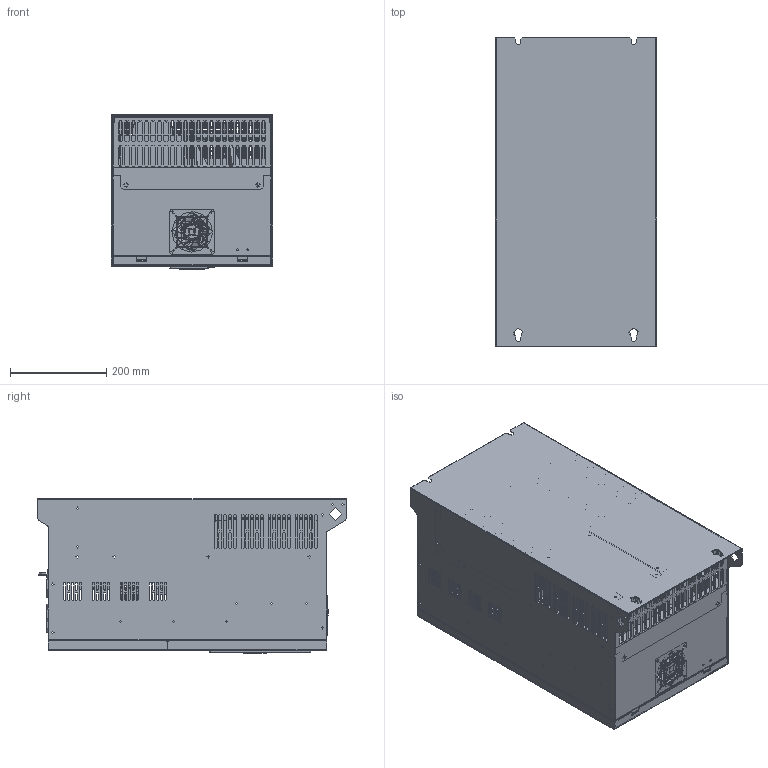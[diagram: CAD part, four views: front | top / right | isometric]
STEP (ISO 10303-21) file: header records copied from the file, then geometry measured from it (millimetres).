
FILE_DESCRIPTION(('STEP AP203'), '1');
FILE_NAME('F7', '', ('UNSPECIFIED'), ('UNSPECIFIED'), 'C3D Converter', 'C3D Toolkit', '');
FILE_SCHEMA(('CONFIG_CONTROL_DESIGN'));
Length unit declared in the file: millimetre
Products named in the file (1): INPRIME-G110-4F
Bounding box: 335 x 640 x 321.5 mm (x, y, z)
Topology: 35 solids, 664 shells, 3703 faces, 16207 edges, 12944 vertices
Faces by surface type: plane 2308, cylinder 1123, bspline 163, torus 93, cone 8, sphere 8
Full cylindrical faces by diameter (mm): 1.5 x25, 3.3 x9, 3.5 x1, 4 x2, 4.1 x30, 4.2 x20, 4.5 x19, 4.6 x2, 5 x11, 5.5 x22, 6 x5, 6.4 x1, 6.5 x1, 6.8 x6, 7 x12, 7.2 x1, 7.9 x1, 8 x1, 8.5 x2, 8.6 x1, 8.7 x6, 9 x2, 10 x5, 11 x2, 12 x1, 12.7 x2, 13 x2, 16.5 x1, 18.2 x1, 21 x1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
Entity records: 226463 total; most frequent: CARTESIAN_POINT 64469, DIRECTION 24798, ORIENTED_EDGE 21666, EDGE_CURVE 15890, VERTEX_POINT 12929, LINE 10902, VECTOR 10902, AXIS2_PLACEMENT_3D 6948
